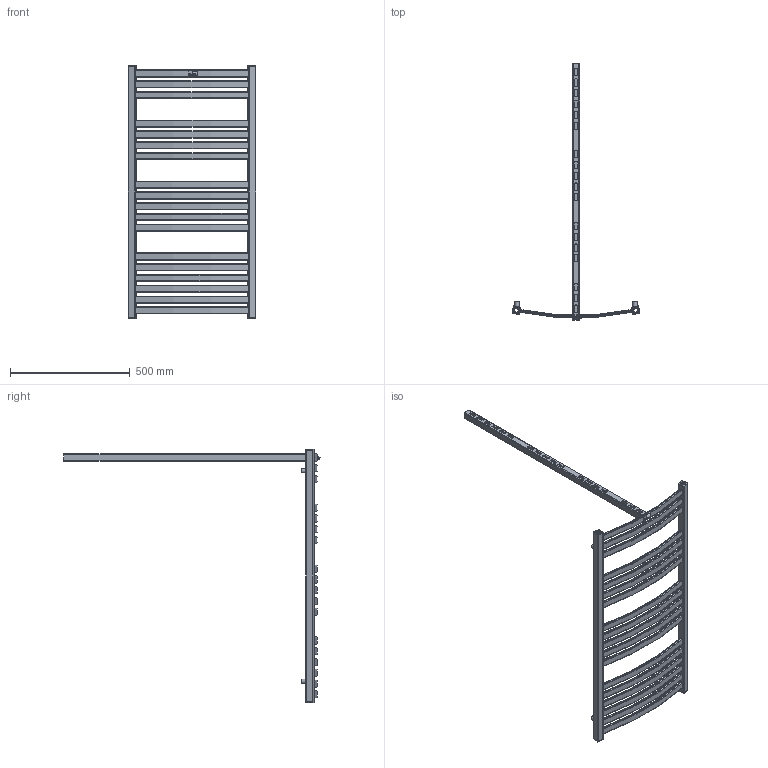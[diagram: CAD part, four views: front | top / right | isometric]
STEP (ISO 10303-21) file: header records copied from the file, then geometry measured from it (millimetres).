
FILE_DESCRIPTION( ( 'Unknown' ), '1' );
FILE_NAME( 'D:/Alplast sp. j/Witryna zespoBu - Projekty/Archiwum/Grzejniki Archiwum/Projekty/STANDARD/AK-EL/AK4-500EL.stp', 'Unknown', ( 'Unknown' ), ( 'Unknown' ), 'PSStep 10.1', 'Unknown', ' ' );
FILE_SCHEMA( ( 'AUTOMOTIVE_DESIGN { 1 0 10303 214 1 1 1 1 }' ) );
Length unit declared in the file: millimetre
Products named in the file (5): Assem1; zaslepka kwadrat otwor; tulejka kat 12stopni; kana³  poziomy lukowy L-500; AK4-EPEL
Bounding box: 534.77 x 1071 x 1060 mm (x, y, z)
Volume: 1482484.1 mm3; surface area: 1986695.7 mm2
Topology: 32 solids, 32 shells, 968 faces, 2702 edges, 1808 vertices
Faces by surface type: plane 430, cylinder 376, torus 162
Full cylindrical faces by diameter (mm): 16 x5, 18 x5, 18.631 x5, 23 x5
Entity records: 8830 total; most frequent: DIRECTION 1286, CARTESIAN_POINT 1225, ORIENTED_EDGE 1180, EDGE_CURVE 590, AXIS2_PLACEMENT_3D 459, VERTEX_POINT 398, LINE 368, VECTOR 368
